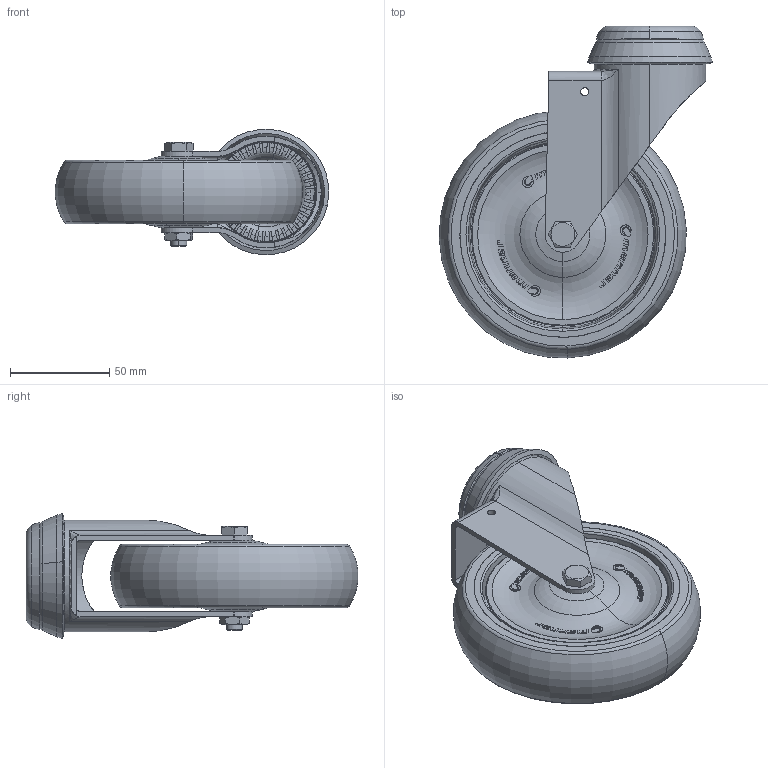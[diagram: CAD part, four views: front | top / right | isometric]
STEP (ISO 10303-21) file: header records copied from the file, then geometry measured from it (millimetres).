
FILE_DESCRIPTION (( 'STEP AP203' ), '1' );
FILE_NAME ('301576_STEP.STEP', '2012-02-27T13:24:21', ( '' ), ( '' ), 'SwSTEP 2.0', 'SolidWorks 2011', '' );
FILE_SCHEMA (( 'CONFIG_CONTROL_DESIGN' ));
Length unit declared in the file: millimetre
Products named in the file (1): 301576_STEP
Bounding box: 138.03 x 167.58 x 63.32 mm (x, y, z)
Surface area: 109288.4 mm2 (no closed solid volume)
Topology: 0 solids, 18 shells, 591 faces, 2655 edges, 2002 vertices
Faces by surface type: plane 306, cylinder 133, torus 96, cone 50, bspline 6
Entity records: 31690 total; most frequent: CARTESIAN_POINT 13742, ORIENTED_EDGE 3835, EDGE_CURVE 2651, DIRECTION 2575, VERTEX_POINT 2002, B_SPLINE_CURVE_WITH_KNOTS 1591, AXIS2_PLACEMENT_3D 945, VECTOR 685
